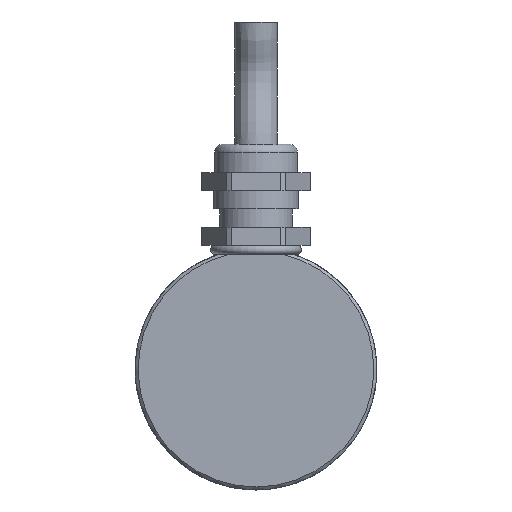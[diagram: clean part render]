
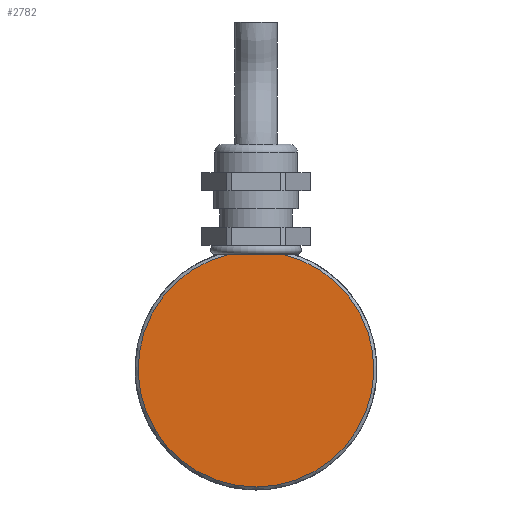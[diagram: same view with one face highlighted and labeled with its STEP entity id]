
A CAD part, left-side view. The second image highlights one B-rep face of the part: STEP entity #2782.
In plain terms, the highlighted planar face has unit normal (-1, 0, 0).
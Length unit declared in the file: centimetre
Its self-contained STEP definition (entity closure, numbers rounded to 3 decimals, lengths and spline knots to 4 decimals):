
#743=PLANE('',#2958);
#764=VECTOR('',#8141,1.);
#904=LINE('',#3060,#764);
#1093=VERTEX_POINT('',#3043);
#1096=VERTEX_POINT('',#3050);
#1300=CIRCLE('',#2836,1.95);
#1382=EDGE_CURVE('',#1096,#1093,#1300,.T.);
#1387=EDGE_CURVE('',#1096,#1093,#904,.T.);
#2170=ORIENTED_EDGE('',*,*,#1382,.F.);
#2171=ORIENTED_EDGE('',*,*,#1387,.T.);
#2457=EDGE_LOOP('',(#2170,#2171));
#2624=FACE_BOUND('',#2457,.T.);
#2782=ADVANCED_FACE('',(#2624),#743,.T.);
#2836=AXIS2_PLACEMENT_3D('',#3051,#8133,#8134);
#2958=AXIS2_PLACEMENT_3D('',#7764,#8420,$);
#3043=CARTESIAN_POINT('',(0.,0.4387,1.9));
#3050=CARTESIAN_POINT('',(0.,-0.4387,1.9));
#3051=CARTESIAN_POINT('',(0.,0.,0.));
#3060=CARTESIAN_POINT('',(0.,2.775,1.9));
#7764=CARTESIAN_POINT('',(0.,0.,-1.));
#8133=DIRECTION('',(1.,0.,0.));
#8134=DIRECTION('',(0.,0.,-1.95));
#8141=DIRECTION('',(0.,1.,0.));
#8420=DIRECTION('',(-1.,0.,0.));
